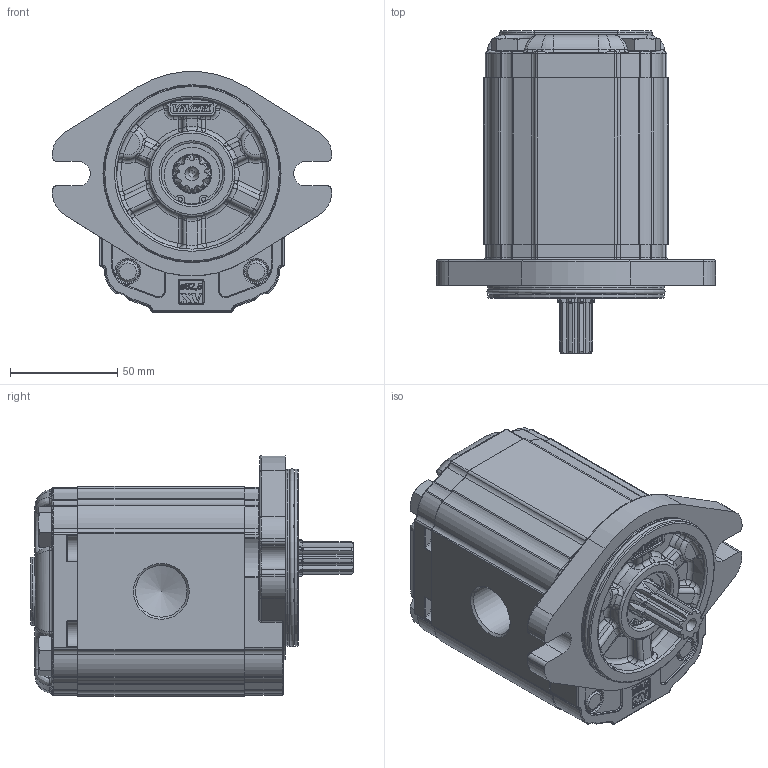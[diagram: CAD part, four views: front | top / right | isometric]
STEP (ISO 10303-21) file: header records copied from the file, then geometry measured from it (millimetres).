
FILE_DESCRIPTION(/* description */ ('Unknown'),/* implementation_level */ '2;1');
FILE_NAME(/* name */ 'X2M5531ICCE',/* time_stamp */ '2021-04-26T11:53:06+02:00',/* author */ ('Unknown'),/* organization */ ('Unknown'),/* preprocessor_version */ 'ST-DEVELOPER v16.7',/* originating_system */ 'Solid Edge',/* authorisation */ 'Unknown');
FILE_SCHEMA (('AUTOMOTIVE_DESIGN {1 0 10303 214 3 1 1}'));
Products named in the file (5): X2M5531ICCE; X2M31; 2I; X2CCH78; XM219-E
Assembly tree (4 placements, depth 2):
  X2M5531ICCE
    X2M31
    2I
    X2CCH78
    XM219-E
Bounding box: 130.38 x 150.7 x 112.3 mm (x, y, z)
Volume: 897728.2 mm3; surface area: 110348.6 mm2
Topology: 4 solids, 5 shells, 1548 faces, 3923 edges, 2447 vertices
Faces by surface type: plane 599, cylinder 430, bspline 210, torus 206, cone 77, sphere 26
Full cylindrical faces by diameter (mm): 2 x2, 11 x2, 11.445 x1, 16 x4, 17.42 x1, 18 x1, 20.595 x1, 23.332 x1, 24.117 x2, 25.834 x1, 28.5 x1, 28.56 x1, 28.57 x1, 28.8 x1, 30.4 x1, 79.6 x2, 82.5 x2
Entity records: 58785 total; most frequent: CARTESIAN_POINT 12903, ORIENTED_EDGE 7616, DIRECTION 7286, EDGE_CURVE 3808, AXIS2_PLACEMENT_3D 2688, VERTEX_POINT 2405, LINE 1910, VECTOR 1910
